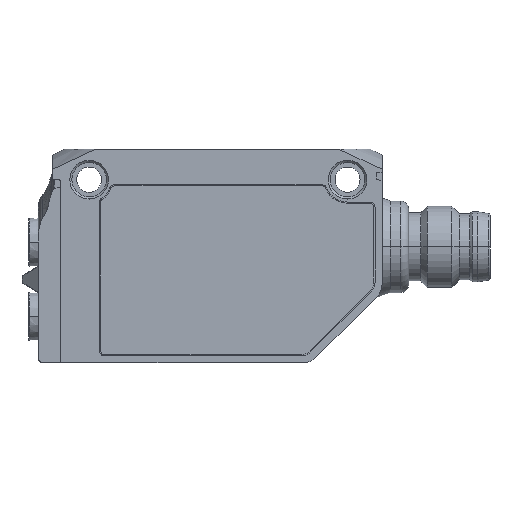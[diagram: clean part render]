
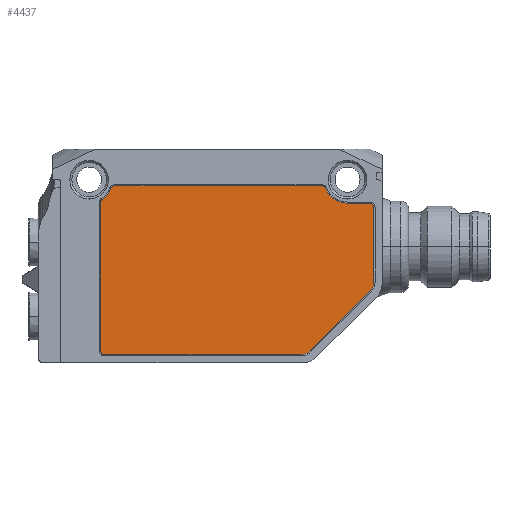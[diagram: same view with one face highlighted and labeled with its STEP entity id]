
A CAD part, left-side view. The second image highlights one B-rep face of the part: STEP entity #4437.
In plain terms, the highlighted planar face has unit normal (-1, 0, 0) as drawn and (0, 0, 1) by its records, which use the part's own axes.
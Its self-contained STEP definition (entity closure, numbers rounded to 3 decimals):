
#2 = EDGE_CURVE ( 'NONE', #3591, #756, #1917, .T. ) ;
#135 = DIRECTION ( 'NONE',  ( 1., 0., 0. ) ) ;
#153 = EDGE_CURVE ( 'NONE', #672, #5147, #5291, .T. ) ;
#162 = DIRECTION ( 'NONE',  ( 1., 0., 0. ) ) ;
#193 = DIRECTION ( 'NONE',  ( -1., 0., 0. ) ) ;
#203 = CARTESIAN_POINT ( 'NONE',  ( 0.81, 27.27, 6.5 ) ) ;
#307 = DIRECTION ( 'NONE',  ( 1., 0., 0. ) ) ;
#501 = VERTEX_POINT ( 'NONE', #1345 ) ;
#543 = ORIENTED_EDGE ( 'NONE', *, *, #2, .T. ) ;
#628 = CARTESIAN_POINT ( 'NONE',  ( 15.27, 1.23, 6.5 ) ) ;
#672 = VERTEX_POINT ( 'NONE', #1619 ) ;
#728 = VERTEX_POINT ( 'NONE', #5473 ) ;
#756 = VERTEX_POINT ( 'NONE', #3084 ) ;
#836 = CARTESIAN_POINT ( 'NONE',  ( 17.39, 5.928, 6.5 ) ) ;
#894 = CIRCLE ( 'NONE', #2453, 0.42 ) ;
#901 = CARTESIAN_POINT ( 'NONE',  ( 15.69, 3.4, 6.5 ) ) ;
#983 = CIRCLE ( 'NONE', #4391, 0.42 ) ;
#1019 = CARTESIAN_POINT ( 'NONE',  ( 18., 28.8, 6.5 ) ) ;
#1227 = LINE ( 'NONE', #3097, #2417 ) ;
#1246 = CIRCLE ( 'NONE', #4646, 2.31 ) ;
#1301 = EDGE_CURVE ( 'NONE', #728, #1339, #983, .T. ) ;
#1339 = VERTEX_POINT ( 'NONE', #836 ) ;
#1345 = CARTESIAN_POINT ( 'NONE',  ( 1.167, 7.078, 6.5 ) ) ;
#1351 = CARTESIAN_POINT ( 'NONE',  ( 1.167, 7.078, 6.5 ) ) ;
#1383 = DIRECTION ( 'NONE',  ( 0.707, -0.707, 0. ) ) ;
#1477 = EDGE_CURVE ( 'NONE', #5717, #2835, #6019, .T. ) ;
#1499 = ORIENTED_EDGE ( 'NONE', *, *, #153, .T. ) ;
#1515 = CARTESIAN_POINT ( 'NONE',  ( 16.97, 26.272, 6.5 ) ) ;
#1619 = CARTESIAN_POINT ( 'NONE',  ( 1.23, 27.69, 6.5 ) ) ;
#1640 = AXIS2_PLACEMENT_3D ( 'NONE', #2704, #3072, #3996 ) ;
#1642 = CARTESIAN_POINT ( 'NONE',  ( 7.941, 0.81, 6.5 ) ) ;
#1662 = DIRECTION ( 'NONE',  ( 1., 0., 0. ) ) ;
#1678 = CARTESIAN_POINT ( 'NONE',  ( 7.941, 0.81, 6.5 ) ) ;
#1719 = CARTESIAN_POINT ( 'NONE',  ( 2.03, 7.941, 6.5 ) ) ;
#1730 = AXIS2_PLACEMENT_3D ( 'NONE', #4081, #3628, #5966 ) ;
#1757 = VECTOR ( 'NONE', #193, 1000. ) ;
#1806 = ORIENTED_EDGE ( 'NONE', *, *, #4570, .T. ) ;
#1917 = LINE ( 'NONE', #1678, #3898 ) ;
#1930 = CIRCLE ( 'NONE', #3772, 2.31 ) ;
#1960 = LINE ( 'NONE', #4119, #2660 ) ;
#2119 = ORIENTED_EDGE ( 'NONE', *, *, #3281, .T. ) ;
#2286 = LINE ( 'NONE', #1351, #4938 ) ;
#2352 = CARTESIAN_POINT ( 'NONE',  ( 7.078, 1.167, 6.5 ) ) ;
#2417 = VECTOR ( 'NONE', #4941, 1000. ) ;
#2426 = DIRECTION ( 'NONE',  ( 0., 0., 1. ) ) ;
#2444 = VERTEX_POINT ( 'NONE', #901 ) ;
#2453 = AXIS2_PLACEMENT_3D ( 'NONE', #628, #4340, #162 ) ;
#2487 = LINE ( 'NONE', #5256, #4885 ) ;
#2568 = EDGE_CURVE ( 'NONE', #2929, #672, #5641, .T. ) ;
#2571 = VERTEX_POINT ( 'NONE', #3463 ) ;
#2622 = AXIS2_PLACEMENT_3D ( 'NONE', #4962, #5523, #307 ) ;
#2648 = DIRECTION ( 'NONE',  ( 0., 0., 1. ) ) ;
#2658 = VERTEX_POINT ( 'NONE', #3548 ) ;
#2660 = VECTOR ( 'NONE', #4784, 1000. ) ;
#2674 = AXIS2_PLACEMENT_3D ( 'NONE', #4555, #2887, #3668 ) ;
#2704 = CARTESIAN_POINT ( 'NONE',  ( 2., 7.828, 6.5 ) ) ;
#2835 = VERTEX_POINT ( 'NONE', #4906 ) ;
#2887 = DIRECTION ( 'NONE',  ( 0., 0., 1. ) ) ;
#2929 = VERTEX_POINT ( 'NONE', #2971 ) ;
#2971 = CARTESIAN_POINT ( 'NONE',  ( 15.739, 27.69, 6.5 ) ) ;
#2992 = ORIENTED_EDGE ( 'NONE', *, *, #3350, .T. ) ;
#2993 = VERTEX_POINT ( 'NONE', #2352 ) ;
#3072 = DIRECTION ( 'NONE',  ( 0., 0., 1. ) ) ;
#3084 = CARTESIAN_POINT ( 'NONE',  ( 15.27, 0.81, 6.5 ) ) ;
#3097 = CARTESIAN_POINT ( 'NONE',  ( 0.81, 27.27, 6.5 ) ) ;
#3160 = FACE_OUTER_BOUND ( 'NONE', #5167, .T. ) ;
#3212 = ORIENTED_EDGE ( 'NONE', *, *, #5637, .T. ) ;
#3238 = DIRECTION ( 'NONE',  ( -1., 0., 0. ) ) ;
#3266 = CARTESIAN_POINT ( 'NONE',  ( 18., 3.4, 6.5 ) ) ;
#3281 = EDGE_CURVE ( 'NONE', #2658, #2929, #3869, .T. ) ;
#3350 = EDGE_CURVE ( 'NONE', #2444, #728, #1930, .T. ) ;
#3380 = VERTEX_POINT ( 'NONE', #5107 ) ;
#3422 = ORIENTED_EDGE ( 'NONE', *, *, #2568, .T. ) ;
#3463 = CARTESIAN_POINT ( 'NONE',  ( 0.81, 7.941, 6.5 ) ) ;
#3501 = ORIENTED_EDGE ( 'NONE', *, *, #4698, .T. ) ;
#3548 = CARTESIAN_POINT ( 'NONE',  ( 16.087, 27.505, 6.5 ) ) ;
#3591 = VERTEX_POINT ( 'NONE', #1642 ) ;
#3628 = DIRECTION ( 'NONE',  ( 0., 0., 1. ) ) ;
#3668 = DIRECTION ( 'NONE',  ( 1., 0., 0. ) ) ;
#3772 = AXIS2_PLACEMENT_3D ( 'NONE', #3266, #5875, #3238 ) ;
#3805 = ORIENTED_EDGE ( 'NONE', *, *, #4454, .T. ) ;
#3822 = DIRECTION ( 'NONE',  ( 1., 0., 0. ) ) ;
#3845 = DIRECTION ( 'NONE',  ( -1., 0., 0. ) ) ;
#3865 = ORIENTED_EDGE ( 'NONE', *, *, #5594, .T. ) ;
#3869 = CIRCLE ( 'NONE', #2622, 0.42 ) ;
#3875 = DIRECTION ( 'NONE',  ( 0., 0., -1. ) ) ;
#3898 = VECTOR ( 'NONE', #3822, 1000. ) ;
#3934 = ORIENTED_EDGE ( 'NONE', *, *, #1477, .T. ) ;
#3996 = DIRECTION ( 'NONE',  ( 1., 0., 0. ) ) ;
#4032 = CARTESIAN_POINT ( 'NONE',  ( 16.97, 5.928, 6.5 ) ) ;
#4068 = CIRCLE ( 'NONE', #4856, 1.22 ) ;
#4081 = CARTESIAN_POINT ( 'NONE',  ( 7.941, 2.03, 6.5 ) ) ;
#4119 = CARTESIAN_POINT ( 'NONE',  ( 15.69, 1.23, 6.5 ) ) ;
#4276 = DIRECTION ( 'NONE',  ( 0., 1., 0. ) ) ;
#4340 = DIRECTION ( 'NONE',  ( 0., 0., 1. ) ) ;
#4391 = AXIS2_PLACEMENT_3D ( 'NONE', #4032, #4872, #5889 ) ;
#4432 = EDGE_CURVE ( 'NONE', #2571, #501, #4068, .T. ) ;
#4437 = ADVANCED_FACE ( 'NONE', ( #3160 ), #5001, .T. ) ;
#4454 = EDGE_CURVE ( 'NONE', #5147, #2571, #1227, .T. ) ;
#4513 = CARTESIAN_POINT ( 'NONE',  ( 17.39, 26.272, 6.5 ) ) ;
#4555 = CARTESIAN_POINT ( 'NONE',  ( 1.23, 27.27, 6.5 ) ) ;
#4558 = ORIENTED_EDGE ( 'NONE', *, *, #5832, .T. ) ;
#4570 = EDGE_CURVE ( 'NONE', #501, #2993, #2286, .T. ) ;
#4646 = AXIS2_PLACEMENT_3D ( 'NONE', #1019, #3875, #3845 ) ;
#4698 = EDGE_CURVE ( 'NONE', #2835, #2658, #1246, .T. ) ;
#4765 = CARTESIAN_POINT ( 'NONE',  ( 15.739, 27.69, 6.5 ) ) ;
#4784 = DIRECTION ( 'NONE',  ( 0., 1., 0. ) ) ;
#4856 = AXIS2_PLACEMENT_3D ( 'NONE', #1719, #2648, #1662 ) ;
#4872 = DIRECTION ( 'NONE',  ( 0., 0., 1. ) ) ;
#4885 = VECTOR ( 'NONE', #4276, 1000. ) ;
#4906 = CARTESIAN_POINT ( 'NONE',  ( 17.128, 26.661, 6.5 ) ) ;
#4930 = CIRCLE ( 'NONE', #1730, 1.22 ) ;
#4938 = VECTOR ( 'NONE', #1383, 1000. ) ;
#4941 = DIRECTION ( 'NONE',  ( 0., -1., 0. ) ) ;
#4962 = CARTESIAN_POINT ( 'NONE',  ( 15.739, 27.27, 6.5 ) ) ;
#5001 = PLANE ( 'NONE',  #1640 ) ;
#5041 = EDGE_CURVE ( 'NONE', #2993, #3591, #4930, .T. ) ;
#5089 = ORIENTED_EDGE ( 'NONE', *, *, #5041, .T. ) ;
#5107 = CARTESIAN_POINT ( 'NONE',  ( 15.69, 1.23, 6.5 ) ) ;
#5147 = VERTEX_POINT ( 'NONE', #203 ) ;
#5167 = EDGE_LOOP ( 'NONE', ( #3422, #1499, #3805, #5893, #1806, #5089, #543, #3212, #4558, #2992, #5438, #3865, #3934, #3501, #2119 ) ) ;
#5256 = CARTESIAN_POINT ( 'NONE',  ( 17.39, 5.928, 6.5 ) ) ;
#5291 = CIRCLE ( 'NONE', #2674, 0.42 ) ;
#5438 = ORIENTED_EDGE ( 'NONE', *, *, #1301, .T. ) ;
#5473 = CARTESIAN_POINT ( 'NONE',  ( 17.128, 5.539, 6.5 ) ) ;
#5523 = DIRECTION ( 'NONE',  ( 0., 0., 1. ) ) ;
#5594 = EDGE_CURVE ( 'NONE', #1339, #5717, #2487, .T. ) ;
#5637 = EDGE_CURVE ( 'NONE', #756, #3380, #894, .T. ) ;
#5641 = LINE ( 'NONE', #4765, #1757 ) ;
#5717 = VERTEX_POINT ( 'NONE', #4513 ) ;
#5826 = AXIS2_PLACEMENT_3D ( 'NONE', #1515, #2426, #135 ) ;
#5832 = EDGE_CURVE ( 'NONE', #3380, #2444, #1960, .T. ) ;
#5875 = DIRECTION ( 'NONE',  ( 0., 0., -1. ) ) ;
#5889 = DIRECTION ( 'NONE',  ( 1., 0., 0. ) ) ;
#5893 = ORIENTED_EDGE ( 'NONE', *, *, #4432, .T. ) ;
#5966 = DIRECTION ( 'NONE',  ( 1., 0., 0. ) ) ;
#6019 = CIRCLE ( 'NONE', #5826, 0.42 ) ;
